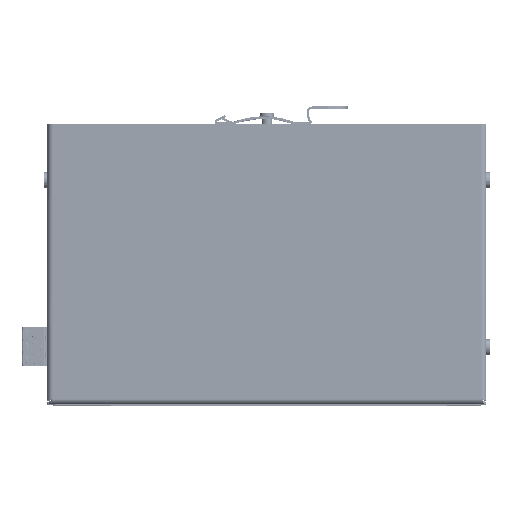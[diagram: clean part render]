
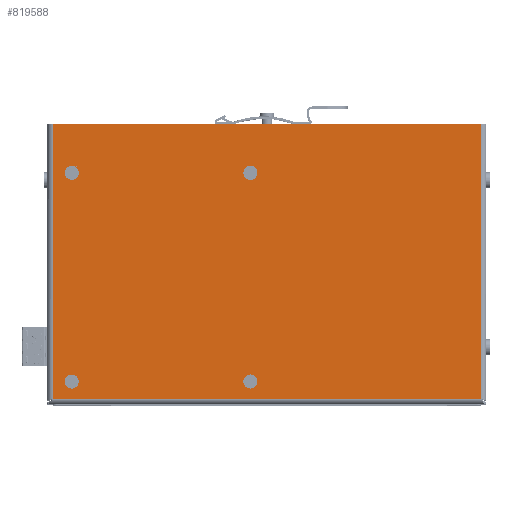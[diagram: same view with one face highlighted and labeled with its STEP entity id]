
A CAD part, top view. The second image highlights one B-rep face of the part: STEP entity #819588.
In plain terms, the highlighted planar face has unit normal (0, 0, 1).
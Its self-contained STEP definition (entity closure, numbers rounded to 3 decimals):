
#59737=FACE_BOUND('',#118921,.T.);
#59738=FACE_BOUND('',#118922,.T.);
#59739=FACE_BOUND('',#118923,.T.);
#59740=FACE_BOUND('',#118924,.T.);
#73526=PLANE('',#859498);
#84977=FACE_OUTER_BOUND('',#118920,.T.);
#118920=EDGE_LOOP('',(#638044,#638045,#638046,#638047));
#118921=EDGE_LOOP('',(#638048));
#118922=EDGE_LOOP('',(#638049));
#118923=EDGE_LOOP('',(#638050));
#118924=EDGE_LOOP('',(#638051));
#166791=LINE('',#1223767,#240226);
#166794=LINE('',#1223777,#240229);
#166797=LINE('',#1223784,#240232);
#166798=LINE('',#1223786,#240233);
#240226=VECTOR('',#958104,10.);
#240229=VECTOR('',#958117,10.);
#240232=VECTOR('',#958128,10.);
#240233=VECTOR('',#958131,10.);
#312444=CIRCLE('',#859445,2.7);
#312446=CIRCLE('',#859448,2.7);
#312448=CIRCLE('',#859451,2.7);
#312450=CIRCLE('',#859454,2.7);
#374263=VERTEX_POINT('',#1223436);
#374265=VERTEX_POINT('',#1223442);
#374267=VERTEX_POINT('',#1223448);
#374269=VERTEX_POINT('',#1223454);
#374289=VERTEX_POINT('',#1223548);
#374299=VERTEX_POINT('',#1223723);
#374300=VERTEX_POINT('',#1223765);
#374302=VERTEX_POINT('',#1223776);
#500543=EDGE_CURVE('',#374263,#374263,#312444,.T.);
#500546=EDGE_CURVE('',#374265,#374265,#312446,.T.);
#500549=EDGE_CURVE('',#374267,#374267,#312448,.T.);
#500552=EDGE_CURVE('',#374269,#374269,#312450,.T.);
#500617=EDGE_CURVE('',#374299,#374300,#166791,.T.);
#500621=EDGE_CURVE('',#374302,#374289,#166794,.T.);
#500625=EDGE_CURVE('',#374289,#374299,#166797,.T.);
#500626=EDGE_CURVE('',#374302,#374300,#166798,.T.);
#638044=ORIENTED_EDGE('',*,*,#500617,.T.);
#638045=ORIENTED_EDGE('',*,*,#500626,.F.);
#638046=ORIENTED_EDGE('',*,*,#500621,.T.);
#638047=ORIENTED_EDGE('',*,*,#500625,.T.);
#638048=ORIENTED_EDGE('',*,*,#500543,.T.);
#638049=ORIENTED_EDGE('',*,*,#500546,.T.);
#638050=ORIENTED_EDGE('',*,*,#500549,.T.);
#638051=ORIENTED_EDGE('',*,*,#500552,.T.);
#819588=ADVANCED_FACE('',(#84977,#59737,#59738,#59739,#59740),#73526,.T.);
#859445=AXIS2_PLACEMENT_3D('',#1223437,#957967,#957968);
#859448=AXIS2_PLACEMENT_3D('',#1223443,#957974,#957975);
#859451=AXIS2_PLACEMENT_3D('',#1223449,#957981,#957982);
#859454=AXIS2_PLACEMENT_3D('',#1223455,#957988,#957989);
#859498=AXIS2_PLACEMENT_3D('',#1223785,#958129,#958130);
#957967=DIRECTION('center_axis',(0.,0.,-1.));
#957968=DIRECTION('ref_axis',(1.,0.,0.));
#957974=DIRECTION('center_axis',(0.,0.,-1.));
#957975=DIRECTION('ref_axis',(1.,0.,0.));
#957981=DIRECTION('center_axis',(0.,0.,-1.));
#957982=DIRECTION('ref_axis',(1.,0.,0.));
#957988=DIRECTION('center_axis',(0.,0.,-1.));
#957989=DIRECTION('ref_axis',(1.,0.,0.));
#958104=DIRECTION('',(0.,1.,0.));
#958117=DIRECTION('',(0.,-1.,0.));
#958128=DIRECTION('',(1.,0.,0.));
#958129=DIRECTION('center_axis',(0.,0.,1.));
#958130=DIRECTION('ref_axis',(1.,0.,0.));
#958131=DIRECTION('',(1.,0.,0.));
#1223436=CARTESIAN_POINT('',(-53.,41.3,1.));
#1223437=CARTESIAN_POINT('Origin',(-50.3,41.3,1.));
#1223442=CARTESIAN_POINT('',(15.5,41.3,1.));
#1223443=CARTESIAN_POINT('Origin',(18.2,41.3,1.));
#1223448=CARTESIAN_POINT('',(15.5,-38.7,1.));
#1223449=CARTESIAN_POINT('Origin',(18.2,-38.7,1.));
#1223454=CARTESIAN_POINT('',(-53.,-38.7,1.));
#1223455=CARTESIAN_POINT('Origin',(-50.3,-38.7,1.));
#1223548=CARTESIAN_POINT('',(-57.65,-45.5,1.));
#1223723=CARTESIAN_POINT('',(106.65,-45.5,1.));
#1223765=CARTESIAN_POINT('',(106.65,59.9,1.));
#1223767=CARTESIAN_POINT('',(106.65,-19.65,1.));
#1223776=CARTESIAN_POINT('',(-57.65,59.9,1.));
#1223777=CARTESIAN_POINT('',(-57.65,33.05,1.));
#1223784=CARTESIAN_POINT('',(-16.575,-45.5,1.));
#1223785=CARTESIAN_POINT('Origin',(24.5,6.2,1.));
#1223786=CARTESIAN_POINT('',(108.65,59.9,1.));
